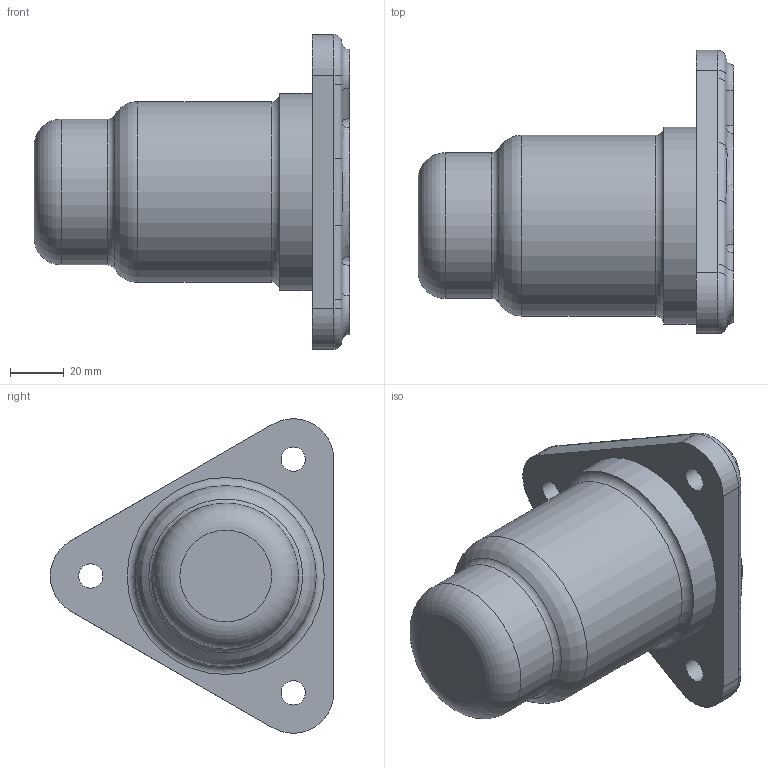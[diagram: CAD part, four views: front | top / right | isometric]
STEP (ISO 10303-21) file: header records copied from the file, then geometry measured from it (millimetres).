
FILE_DESCRIPTION(/* description */ (''),/* implementation_level */ '2;1');
FILE_NAME(/* name */ 'C:\Users\oem\Desktop\641003E1001\641003E1001-하우징.stp',/* time_stamp */ '2024-10-19T11:35:24+09:00',/* author */ ('oem'),/* organization */ (''),/* preprocessor_version */ 'ST-DEVELOPER v18',/* originating_system */ 'Autodesk Inventor 2020',/* authorisation */ '');
FILE_SCHEMA (('AUTOMOTIVE_DESIGN { 1 0 10303 214 3 1 1 }'));
Length unit declared in the file: millimetre
Products named in the file (1): 641003E1001-하우징
Bounding box: 117 x 105 x 116.6 mm (x, y, z)
Volume: 236986.6 mm3; surface area: 55864.9 mm2
Topology: 1 solids, 1 shells, 85 faces, 222 edges, 144 vertices
Faces by surface type: cylinder 31, torus 19, plane 16, bspline 9, sphere 6, cone 4
Full cylindrical faces by diameter (mm): 3.242 x4, 9 x3, 24 x1, 35 x1, 42 x1, 47 x2, 53 x1, 54 x1, 67 x1, 73 x1
Entity records: 2945 total; most frequent: CARTESIAN_POINT 736, DIRECTION 501, ORIENTED_EDGE 436, AXIS2_PLACEMENT_3D 224, EDGE_CURVE 218, CIRCLE 147, VERTEX_POINT 144, EDGE_LOOP 100
